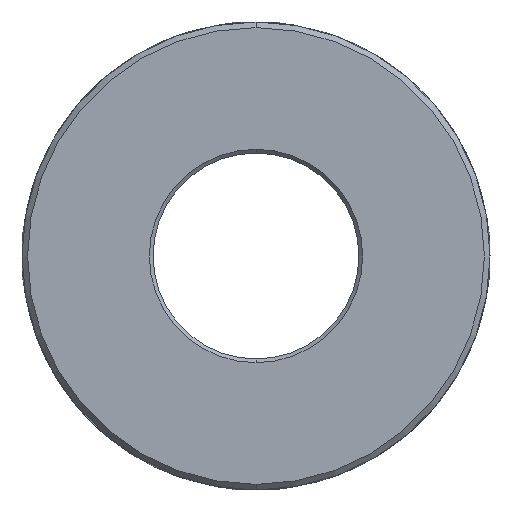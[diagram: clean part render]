
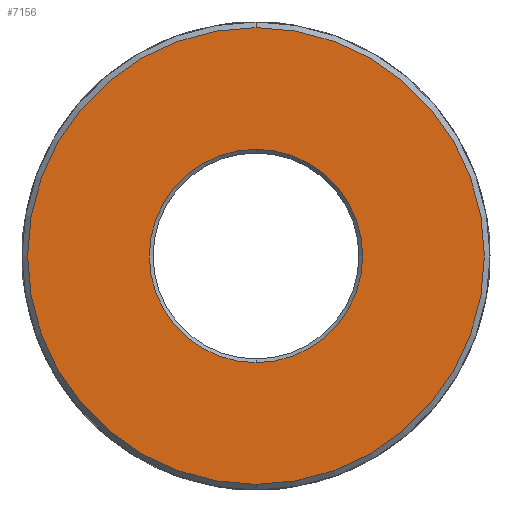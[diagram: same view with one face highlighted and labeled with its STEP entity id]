
A CAD part, front view. The second image highlights one B-rep face of the part: STEP entity #7156.
In plain terms, the highlighted planar face has unit normal (0, -1, 0).
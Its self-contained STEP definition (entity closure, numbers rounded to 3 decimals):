
#91 = VERTEX_POINT ( 'NONE', #2168 ) ;
#625 = DIRECTION ( 'NONE',  ( 0., -1., 0. ) ) ;
#983 = DIRECTION ( 'NONE',  ( 0., 0., 1. ) ) ;
#1318 = CARTESIAN_POINT ( 'NONE',  ( 0., 0., -24.4 ) ) ;
#1415 = VERTEX_POINT ( 'NONE', #1318 ) ;
#1419 = CIRCLE ( 'NONE', #6049, 24.4 ) ;
#1671 = CIRCLE ( 'NONE', #4617, 24.4 ) ;
#1698 = EDGE_CURVE ( 'NONE', #1415, #91, #1419, .T. ) ;
#1767 = CIRCLE ( 'NONE', #7169, 11.4 ) ;
#1830 = CARTESIAN_POINT ( 'NONE',  ( 0., 0., 0. ) ) ;
#1856 = AXIS2_PLACEMENT_3D ( 'NONE', #7559, #3554, #5253 ) ;
#2087 = DIRECTION ( 'NONE',  ( 0., -1., 0. ) ) ;
#2168 = CARTESIAN_POINT ( 'NONE',  ( 0., 0., 24.4 ) ) ;
#2317 = DIRECTION ( 'NONE',  ( 0., 0., 1. ) ) ;
#2319 = ORIENTED_EDGE ( 'NONE', *, *, #1698, .T. ) ;
#2386 = DIRECTION ( 'NONE',  ( 0., 1., 0. ) ) ;
#2394 = EDGE_CURVE ( 'NONE', #91, #1415, #1671, .T. ) ;
#2449 = DIRECTION ( 'NONE',  ( 0., 0., 1. ) ) ;
#2571 = ORIENTED_EDGE ( 'NONE', *, *, #2629, .T. ) ;
#2624 = FACE_BOUND ( 'NONE', #5365, .T. ) ;
#2629 = EDGE_CURVE ( 'NONE', #2965, #2721, #1767, .T. ) ;
#2721 = VERTEX_POINT ( 'NONE', #2988 ) ;
#2963 = CARTESIAN_POINT ( 'NONE',  ( 0., 0., 0. ) ) ;
#2965 = VERTEX_POINT ( 'NONE', #6919 ) ;
#2988 = CARTESIAN_POINT ( 'NONE',  ( 0., 0., 11.4 ) ) ;
#3074 = DIRECTION ( 'NONE',  ( 0., 1., 0. ) ) ;
#3554 = DIRECTION ( 'NONE',  ( 0., 1., 0. ) ) ;
#4249 = CARTESIAN_POINT ( 'NONE',  ( -50., 0., 32.858 ) ) ;
#4304 = EDGE_CURVE ( 'NONE', #2721, #2965, #5873, .T. ) ;
#4434 = CARTESIAN_POINT ( 'NONE',  ( 0., 0., 0. ) ) ;
#4617 = AXIS2_PLACEMENT_3D ( 'NONE', #4434, #2087, #983 ) ;
#4711 = DIRECTION ( 'NONE',  ( 0., 0., 1. ) ) ;
#4737 = EDGE_LOOP ( 'NONE', ( #4765, #2319 ) ) ;
#4765 = ORIENTED_EDGE ( 'NONE', *, *, #2394, .T. ) ;
#5253 = DIRECTION ( 'NONE',  ( 0., 0., 1. ) ) ;
#5365 = EDGE_LOOP ( 'NONE', ( #2571, #5434 ) ) ;
#5434 = ORIENTED_EDGE ( 'NONE', *, *, #4304, .T. ) ;
#5485 = AXIS2_PLACEMENT_3D ( 'NONE', #4249, #3074, #2449 ) ;
#5873 = CIRCLE ( 'NONE', #1856, 11.4 ) ;
#6049 = AXIS2_PLACEMENT_3D ( 'NONE', #2963, #625, #4711 ) ;
#6642 = FACE_OUTER_BOUND ( 'NONE', #4737, .T. ) ;
#6919 = CARTESIAN_POINT ( 'NONE',  ( 0., 0., -11.4 ) ) ;
#7129 = PLANE ( 'NONE',  #5485 ) ;
#7156 = ADVANCED_FACE ( 'NONE', ( #2624, #6642 ), #7129, .F. ) ;
#7169 = AXIS2_PLACEMENT_3D ( 'NONE', #1830, #2386, #2317 ) ;
#7559 = CARTESIAN_POINT ( 'NONE',  ( 0., 0., 0. ) ) ;
